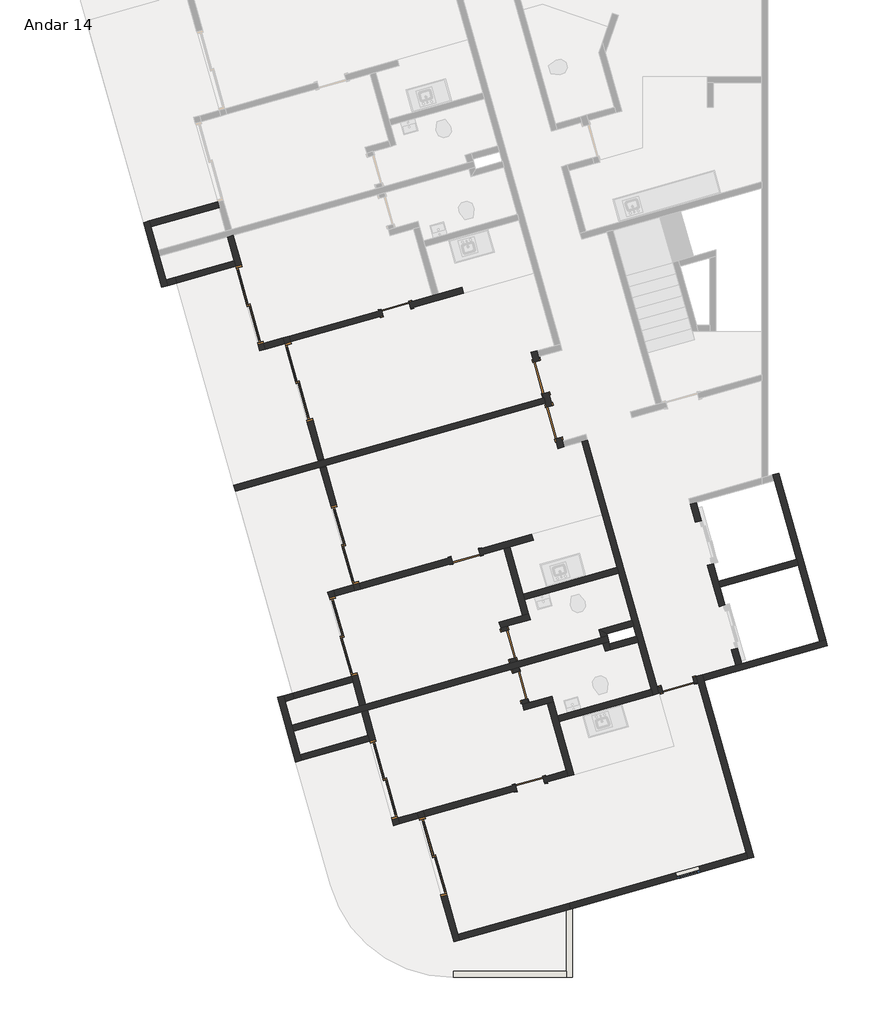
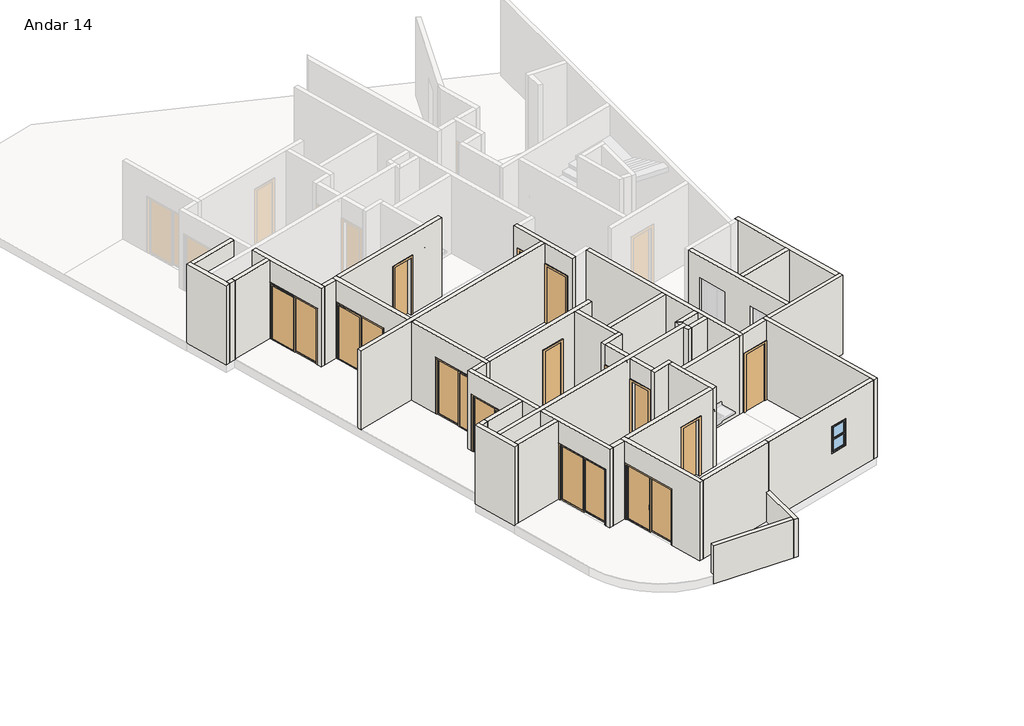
# One storey, part 1 of 3: 46 walls, 14 doors, 1 window.
"""IFC4 building model written with IfcOpenShell, lengths in millimetres."""

from ifc_helpers import new_model, si_unit, frame, origin, place, context, project, spatial, polyline, outline, extrude, faceted_brep, transform, mapped, element, save
from components import p2_80cm_9d4be4ef, p2_80cm_083652d6, p3_70cm_ef4d15e3, p3_70cm_0a698c7c, p4_correr_200cm_eaaa0877, p4_correr_200cm_830b8f20, bx_60cm_cef95a5c

model = new_model("IFC4")

# Units and contexts
model_context = context("Model", 3, world=origin())
ifc_project = project(units=[si_unit("LENGTHUNIT", "METRE", prefix="MILLI")], contexts=[model_context])

# Site, building, storey
site = spatial("IfcSite", under=ifc_project)
building = spatial("IfcBuilding", under=site)
storey = spatial("IfcBuildingStorey", under=building, Name="Andar 14", Elevation=91350.0)

# Doors
placement = place(None, origin())
p2_80cm_shape = p2_80cm_9d4be4ef(model_context)
element("IfcDoor", 1, ObjectType="M_Folha única1 : P2 - 80CM", at=placement, inside=storey, context=model_context, shape_type="MappedRepresentation", body=[
    mapped(p2_80cm_shape, transform((-80566.3456776, 19693.5423602, 91350.0), x_axis=(0.2717679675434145, -0.9623628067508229, 0.0), y_axis=(0.9623628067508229, 0.2717679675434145, 0.0), z_axis=(0.0, 0.0, 1.0))),
])
element("IfcDoor", 2, ObjectType="M_Folha única1 : P2 - 80CM", at=placement, inside=storey, context=model_context, shape_type="MappedRepresentation", body=[
    mapped(p2_80cm_shape, transform((-77213.6668366, 12144.847648, 91350.0), x_axis=(0.9623628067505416, 0.2717679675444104, 0.0), y_axis=(-0.2717679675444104, 0.9623628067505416, 0.0), z_axis=(0.0, 0.0, 1.0))),
])
p2_80cm_2_shape = p2_80cm_083652d6(model_context)
element("IfcDoor", 3, ObjectType="M_Folha única1 : P2 - 80CM", at=placement, inside=storey, context=model_context, shape_type="MappedRepresentation", body=[
    mapped(p2_80cm_2_shape, transform((-80253.8125149, 18586.8251325, 91350.0), x_axis=(-0.2717679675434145, 0.9623628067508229, 0.0), y_axis=(-0.9623628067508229, -0.2717679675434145, 0.0), z_axis=(0.0, 0.0, 1.0))),
])
p3_70cm_shape = p3_70cm_ef4d15e3(model_context)
element("IfcDoor", 4, ObjectType="M_Folha única1 : P3 - 70CM", at=placement, inside=storey, context=model_context, shape_type="MappedRepresentation", body=[
    mapped(p3_70cm_shape, transform((-84129.1775441, 21363.1168842, 91350.0), x_axis=(0.9623628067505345, 0.27176796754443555, 0.0), y_axis=(-0.27176796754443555, 0.9623628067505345, 0.0), z_axis=(0.0, 0.0, 1.0))),
])
element("IfcDoor", 5, ObjectType="M_Folha única1 : P3 - 70CM", at=placement, inside=storey, context=model_context, shape_type="MappedRepresentation", body=[
    mapped(p3_70cm_shape, transform((-80840.7851368, 9718.5269225, 91350.0), x_axis=(0.9623628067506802, 0.2717679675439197, 0.0), y_axis=(-0.2717679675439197, 0.9623628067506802, 0.0), z_axis=(0.0, 0.0, 1.0))),
])
element("IfcDoor", 6, ObjectType="M_Folha única1 : P3 - 70CM", at=placement, inside=storey, context=model_context, shape_type="MappedRepresentation", body=[
    mapped(p3_70cm_shape, transform((-81362.5862327, 13130.1209218, 91350.0), x_axis=(0.27176796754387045, -0.9623628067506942, 0.0), y_axis=(0.9623628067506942, 0.27176796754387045, 0.0), z_axis=(0.0, 0.0, 1.0))),
])
p3_70cm_2_shape = p3_70cm_0a698c7c(model_context)
element("IfcDoor", 7, ObjectType="M_Folha única1 : P3 - 70CM", at=placement, inside=storey, context=model_context, shape_type="MappedRepresentation", body=[
    mapped(p3_70cm_2_shape, transform((-81077.2298668, 12119.6399747, 91350.0), x_axis=(-0.27176796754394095, 0.9623628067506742, 0.0), y_axis=(-0.9623628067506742, -0.27176796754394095, 0.0), z_axis=(0.0, 0.0, 1.0))),
])
element("IfcDoor", 8, ObjectType="M_Folha única1 : P3 - 70CM", at=placement, inside=storey, context=model_context, shape_type="MappedRepresentation", body=[
    mapped(p3_70cm_2_shape, transform((-82417.0393485, 15300.2312016, 91350.0), x_axis=(0.9623628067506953, 0.2717679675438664, 0.0), y_axis=(-0.2717679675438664, 0.9623628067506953, 0.0), z_axis=(0.0, 0.0, 1.0))),
])
p4_correr_200cm_shape = p4_correr_200cm_eaaa0877(model_context)
element("IfcDoor", 9, ObjectType="Porta de correr dupla envidraçada sem revestimento : P4 - CORRER - 200CM", at=placement, inside=storey, context=model_context, shape_type="MappedRepresentation", body=[
    mapped(p4_correr_200cm_shape, transform((-86511.4049952, 19573.3416554, 91350.0), x_axis=(0.2717679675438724, -0.9623628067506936, 0.0), y_axis=(0.9623628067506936, 0.2717679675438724, 0.0), z_axis=(0.0, 0.0, 1.0))),
])
element("IfcDoor", 10, ObjectType="Porta de correr dupla envidraçada sem revestimento : P4 - CORRER - 200CM", at=placement, inside=storey, context=model_context, shape_type="MappedRepresentation", body=[
    mapped(p4_correr_200cm_shape, transform((-87717.4207223, 21466.8516126, 91350.0), x_axis=(0.2717679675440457, -0.9623628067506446, 0.0), y_axis=(0.9623628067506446, 0.2717679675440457, 0.0), z_axis=(0.0, 0.0, 1.0))),
])
element("IfcDoor", 11, ObjectType="Porta de correr dupla envidraçada sem revestimento : P4 - CORRER - 200CM", at=placement, inside=storey, context=model_context, shape_type="MappedRepresentation", body=[
    mapped(p4_correr_200cm_shape, transform((-84429.028315, 9822.2616509, 91350.0), x_axis=(-0.27176796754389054, 0.9623628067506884, 0.0), y_axis=(-0.9623628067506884, -0.27176796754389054, 0.0), z_axis=(0.0, 0.0, 1.0))),
])
element("IfcDoor", 12, ObjectType="Porta de correr dupla envidraçada sem revestimento : P4 - CORRER - 200CM", at=placement, inside=storey, context=model_context, shape_type="MappedRepresentation", body=[
    mapped(p4_correr_200cm_shape, transform((-83223.012588, 7928.7516937, 91350.0), x_axis=(-0.2717679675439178, 0.9623628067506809, 0.0), y_axis=(-0.9623628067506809, -0.2717679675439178, 0.0), z_axis=(0.0, 0.0, 1.0))),
])
p4_correr_200cm_2_shape = p4_correr_200cm_830b8f20(model_context)
element("IfcDoor", 13, ObjectType="Porta de correr dupla envidraçada sem revestimento : P4 - CORRER - 200CM", at=placement, inside=storey, context=model_context, shape_type="MappedRepresentation", body=[
    mapped(p4_correr_200cm_2_shape, transform((-85383.5679299, 15579.5360073, 91350.0), x_axis=(-0.2717679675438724, 0.9623628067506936, 0.0), y_axis=(-0.9623628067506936, -0.2717679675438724, 0.0), z_axis=(0.0, 0.0, 1.0))),
])
element("IfcDoor", 14, ObjectType="Porta de correr dupla envidraçada sem revestimento : P4 - CORRER - 200CM", at=placement, inside=storey, context=model_context, shape_type="MappedRepresentation", body=[
    mapped(p4_correr_200cm_2_shape, transform((-85420.9813965, 13334.8858955, 91350.0), x_axis=(-0.27176796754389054, 0.9623628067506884, 0.0), y_axis=(-0.9623628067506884, -0.27176796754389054, 0.0), z_axis=(0.0, 0.0, 1.0))),
])

# Walls
element("IfcWall", 15, ObjectType="Básica .15 - Externa", at=placement, inside=storey, context=model_context, shape_type="Brep", body=[
    faceted_brep([(-75344.9919691, 7919.3931149, 91350.0), (-76567.7484146, 12249.3196164, 91350.0), (-76608.5136097, 12393.6740374, 91350.0), (-76608.5136097, 12393.6740374, 94250.0), (-76567.7484146, 12249.3196164, 94250.0), (-75344.9919691, 7919.3931149, 94250.0), (-75489.3463901, 7878.6279198, 91350.0), (-75489.3463901, 7878.6279198, 94250.0), (-75530.1115852, 8022.9823408, 94250.0), (-76712.1028356, 12208.5544213, 94250.0), (-76752.8680308, 12352.9088423, 94250.0), (-76752.8680308, 12352.9088423, 91350.0), (-76712.1028356, 12208.5544213, 91350.0), (-75530.1115852, 8022.9823408, 91350.0)], [[[0, 1, 2, 3, 4, 5]], [[6, 7, 8, 9, 10, 11, 12, 13]], [[2, 1, 0, 6, 13, 12, 11]], [[5, 4, 3, 10, 9, 8, 7]], [[0, 5, 7, 6]], [[3, 2, 11, 10]]]),
])
element("IfcWall", 16, ObjectType="Básica .15 -  Interna", at=placement, inside=storey, context=model_context, shape_type="Brep", body=[
    faceted_brep([(-80529.815701, 19288.21464, 91350.0), (-80502.6389043, 19191.9783593, 91350.0), (-80461.8737092, 19047.6239383, 91350.0), (-80434.6969124, 18951.3876576, 91350.0), (-80434.6969124, 18951.3876576, 93450.0), (-80217.2825384, 18181.4974122, 93450.0), (-80217.2825384, 18181.4974122, 91350.0), (-80149.3405465, 17940.9067105, 91350.0), (-80149.3405465, 17940.9067105, 94250.0), (-80461.8737092, 19047.6239383, 94250.0), (-80502.6389043, 19191.9783593, 94250.0), (-80815.172067, 20298.695587, 94250.0), (-80815.172067, 20298.695587, 91350.0), (-80747.2300751, 20058.1048854, 91350.0), (-80747.2300751, 20058.1048854, 93450.0), (-80529.815701, 19288.21464, 93450.0), (-80290.3424914, 18992.1528527, 93450.0), (-80290.3424914, 18992.1528527, 91350.0), (-80385.46128, 19328.9798351, 91350.0), (-80385.46128, 19328.9798351, 93450.0), (-80602.8756541, 20098.8700805, 93450.0), (-80602.8756541, 20098.8700805, 91350.0), (-80630.0524508, 20195.1063612, 91350.0), (-80670.817646, 20339.4607822, 91350.0), (-80670.817646, 20339.4607822, 94250.0), (-80630.0524508, 20195.1063612, 94250.0), (-80045.7513206, 18126.0263266, 94250.0), (-80004.9861255, 17981.6719056, 94250.0), (-80004.9861255, 17981.6719056, 91350.0), (-80045.7513206, 18126.0263266, 91350.0), (-80072.9281174, 18222.2626073, 91350.0), (-80072.9281174, 18222.2626073, 93450.0)], [[[0, 1, 2, 3, 4, 5, 6, 7, 8, 9, 10, 11, 12, 13, 14, 15]], [[16, 17, 18, 19, 20, 21, 22, 23, 24, 25, 26, 27, 28, 29, 30, 31]], [[13, 12, 23, 22, 21]], [[18, 17, 3, 2, 1, 0]], [[30, 29, 28, 7, 6]], [[11, 10, 9, 8, 27, 26, 25, 24]], [[12, 11, 24, 23]], [[8, 7, 28, 27]], [[19, 18, 0, 15]], [[20, 19, 15, 14]], [[21, 20, 14, 13]], [[4, 3, 17, 16]], [[5, 4, 16, 31]], [[6, 5, 31, 30]]]),
])
element("IfcWall", 17, ObjectType="Básica .15 -  Interna", at=placement, inside=storey, context=model_context, shape_type="Brep", body=[
    faceted_brep([(-79571.9228624, 18103.967491, 91350.0), (-78702.2653663, 15024.4065094, 91350.0), (-78661.5001712, 14880.0520884, 91350.0), (-78335.3786101, 13725.2167203, 91350.0), (-78294.613415, 13580.8622993, 91350.0), (-78226.6714231, 13340.2715976, 91350.0), (-78185.906228, 13195.9171766, 91350.0), (-77818.8200634, 11896.0212586, 91350.0), (-77818.8200634, 11896.0212586, 94250.0), (-78185.906228, 13195.9171766, 94250.0), (-78226.6714231, 13340.2715976, 94250.0), (-78294.613415, 13580.8622993, 94250.0), (-78335.3786101, 13725.2167203, 94250.0), (-78661.5001712, 14880.0520884, 94250.0), (-78702.2653663, 15024.4065094, 94250.0), (-79571.9228624, 18103.967491, 94250.0), (-79427.5684414, 18144.7326862, 91350.0), (-79427.5684414, 18144.7326862, 94250.0), (-77715.2308375, 12081.1408747, 94250.0), (-77674.4656424, 11936.7864537, 94250.0), (-77674.4656424, 11936.7864537, 91350.0), (-77715.2308375, 12081.1408747, 91350.0)], [[[0, 1, 2, 3, 4, 5, 6, 7, 8, 9, 10, 11, 12, 13, 14, 15]], [[16, 17, 18, 19, 20, 21]], [[7, 6, 5, 4, 3, 2, 1, 0, 16, 21, 20]], [[15, 14, 13, 12, 11, 10, 9, 8, 19, 18, 17]], [[0, 15, 17, 16]], [[8, 7, 20, 19]]]),
])
element("IfcWall", 18, ObjectType="Básica .15 -  Interna", at=placement, inside=storey, context=model_context, shape_type="Brep", body=[
    faceted_brep([(-85017.5646639, 11630.3683862, 94250.0), (-85180.6254444, 12207.7860702, 94250.0), (-85221.3906395, 12352.1404912, 94250.0), (-85805.6917697, 14421.2205257, 94250.0), (-85805.6917697, 14421.2205257, 91350.0), (-85764.9265746, 14276.8661047, 91350.0), (-85764.9265746, 14276.8661047, 93450.0), (-85221.3906395, 12352.1404912, 93450.0), (-85221.3906395, 12352.1404912, 91350.0), (-85180.6254444, 12207.7860702, 91350.0), (-85017.5646639, 11630.3683862, 91350.0), (-85661.3373487, 14461.9857209, 94250.0), (-85620.5721536, 14317.6312998, 94250.0), (-84873.2102428, 11671.1335813, 94250.0), (-84873.2102428, 11671.1335813, 91350.0), (-85077.0362185, 12392.9056863, 91350.0), (-85077.0362185, 12392.9056863, 93450.0), (-85620.5721536, 14317.6312998, 93450.0), (-85620.5721536, 14317.6312998, 91350.0), (-85661.3373487, 14461.9857209, 91350.0)], [[[0, 1, 2, 3, 4, 5, 6, 7, 8, 9, 10]], [[11, 12, 13, 14, 15, 16, 17, 18, 19]], [[4, 19, 18, 5]], [[14, 10, 9, 8, 15]], [[3, 2, 1, 0, 13, 12, 11]], [[4, 3, 11, 19]], [[0, 10, 14, 13]], [[17, 6, 5, 18]], [[6, 17, 16, 7]], [[7, 16, 15, 8]]]),
])
element("IfcWall", 19, ObjectType="Básica .15 -  Interna", at=placement, inside=storey, context=model_context, shape_type="Brep", body=[
    faceted_brep([(-82710.8886682, 5839.2890616, 94250.0), (-83566.957766, 8870.7319029, 94250.0), (-83607.7229611, 9015.0863239, 94250.0), (-83607.7229611, 9015.0863239, 91350.0), (-83566.957766, 8870.7319029, 91350.0), (-83566.957766, 8870.7319029, 93450.0), (-83023.4218309, 6946.0062894, 93450.0), (-83023.4218309, 6946.0062894, 91350.0), (-82710.8886682, 5839.2890616, 91350.0), (-83463.3685401, 9055.851519, 94250.0), (-83422.603345, 8911.497098, 94250.0), (-82607.2994424, 6024.4086777, 94250.0), (-82566.5342472, 5880.0542567, 94250.0), (-82566.5342472, 5880.0542567, 91350.0), (-82607.2994424, 6024.4086777, 91350.0), (-82879.0674099, 6986.7714845, 91350.0), (-82879.0674099, 6986.7714845, 93450.0), (-83422.603345, 8911.497098, 93450.0), (-83422.603345, 8911.497098, 91350.0), (-83463.3685401, 9055.851519, 91350.0)], [[[0, 1, 2, 3, 4, 5, 6, 7, 8]], [[9, 10, 11, 12, 13, 14, 15, 16, 17, 18, 19]], [[3, 19, 18, 4]], [[13, 8, 7, 15, 14]], [[2, 1, 0, 12, 11, 10, 9]], [[3, 2, 9, 19]], [[0, 8, 13, 12]], [[17, 5, 4, 18]], [[5, 17, 16, 6]], [[6, 16, 15, 7]]]),
])
element("IfcWall", 20, ObjectType="Básica .15 -  Interna", at=placement, inside=storey, context=model_context, shape_type="Brep", body=[
    faceted_brep([(-86046.8404698, 17652.2925145, 91350.0), (-86046.8404698, 17652.2925145, 94250.0), (-86855.3501733, 20515.3218646, 94250.0), (-86896.1153684, 20659.6762856, 94250.0), (-86896.1153684, 20659.6762856, 91350.0), (-86855.3501733, 20515.3218646, 91350.0), (-86855.3501733, 20515.3218646, 93450.0), (-86311.8142382, 18590.596251, 93450.0), (-86311.8142382, 18590.596251, 91350.0), (-85902.4860488, 17693.0577096, 94250.0), (-85902.4860488, 17693.0577096, 91350.0), (-86167.4598172, 18631.3614462, 91350.0), (-86167.4598172, 18631.3614462, 93450.0), (-86710.9957523, 20556.0870597, 93450.0), (-86710.9957523, 20556.0870597, 91350.0), (-86751.7609474, 20700.4414807, 91350.0), (-86751.7609474, 20700.4414807, 94250.0), (-86710.9957523, 20556.0870597, 94250.0)], [[[0, 1, 2, 3, 4, 5, 6, 7, 8]], [[9, 10, 11, 12, 13, 14, 15, 16, 17]], [[10, 0, 8, 11]], [[4, 15, 14, 5]], [[1, 0, 10, 9]], [[3, 2, 1, 9, 17, 16]], [[4, 3, 16, 15]], [[7, 12, 11, 8]], [[12, 7, 6, 13]], [[13, 6, 5, 14]]]),
])
element("IfcWall", 21, ObjectType="Básica .15 - Externa", at=placement, inside=storey, context=model_context, shape_type="Brep", body=[
    faceted_brep([(-79945.4990038, 6620.2256515, 92450.0), (-79945.4990038, 6620.2256515, 91350.0), (-79945.4990038, 6620.2256515, 91050.0), (-79945.4990038, 5119.4122055, 91050.0), (-79945.4990038, 4969.4122055, 91050.0), (-79945.4990038, 4969.4122055, 92450.0), (-79945.4990038, 5119.4122055, 92450.0), (-79795.4990038, 6662.5851389, 91050.0), (-79795.4990038, 6662.5851389, 92450.0), (-79795.4990038, 4969.4122055, 92450.0), (-79795.4990038, 4969.4122055, 91050.0), (-79850.1164062, 6647.1613711, 91050.0)], [[[0, 1, 2, 3, 4, 5, 6]], [[7, 8, 9, 10]], [[4, 3, 2, 11, 7, 10]], [[0, 6, 5, 9, 8]], [[5, 4, 10, 9]], [[0, 8, 7, 11, 2, 1]]]),
])
element("IfcWall", 22, ObjectType="Básica .15 - Externa", at=placement, inside=storey, context=model_context, shape_type="SweptSolid", body=[
    extrude(outline(polyline([(-82713.5540687, 5119.4122055), (-79945.4990038, 5119.4122055), (-79945.4990038, 4969.4122055), (-82713.5540687, 4969.4122055), (-82713.5540687, 5119.4122055)])), frame((0.0, 0.0, 91050.0), z_axis=(0.0, 0.0, 1.0), x_axis=(1.0, 0.0, 0.0)), (0.0, 0.0, 1.0), 1400.0),
])
element("IfcWall", 23, ObjectType="Básica .15 - Externa", at=placement, inside=storey, context=model_context, shape_type="Brep", body=[
    faceted_brep([(-73581.8825825, 13248.3842954, 91350.0), (-73726.2370035, 13207.6191002, 91350.0), (-75646.150803, 12665.442005, 91350.0), (-75790.505224, 12624.6768098, 91350.0), (-76608.5136097, 12393.6740374, 91350.0), (-76608.5136097, 12393.6740374, 94250.0), (-75790.505224, 12624.6768098, 94250.0), (-75646.150803, 12665.442005, 94250.0), (-73726.2370035, 13207.6191002, 94250.0), (-73581.8825825, 13248.3842954, 94250.0), (-73541.1173874, 13104.0298743, 91350.0), (-73541.1173874, 13104.0298743, 94250.0), (-76567.7484146, 12249.3196164, 94250.0), (-76567.7484146, 12249.3196164, 91350.0)], [[[0, 1, 2, 3, 4, 5, 6, 7, 8, 9]], [[10, 11, 12, 13]], [[4, 3, 2, 1, 0, 10, 13]], [[9, 8, 7, 6, 5, 12, 11]], [[0, 9, 11, 10]], [[5, 4, 13, 12]]]),
])
element("IfcWall", 24, ObjectType="Básica .15 - Externa", at=placement, inside=storey, context=model_context, shape_type="Brep", body=[
    faceted_brep([(-74881.2508656, 17297.6610289, 91350.0), (-74840.4856705, 17153.3066079, 91350.0), (-74296.9497354, 15228.5809944, 91350.0), (-74256.1845402, 15084.2265734, 91350.0), (-73726.2370035, 13207.6191002, 91350.0), (-73726.2370035, 13207.6191002, 94250.0), (-74256.1845402, 15084.2265734, 94250.0), (-74296.9497354, 15228.5809944, 94250.0), (-74840.4856705, 17153.3066079, 94250.0), (-74881.2508656, 17297.6610289, 94250.0), (-74736.8964446, 17338.426224, 91350.0), (-74736.8964446, 17338.426224, 94250.0), (-73581.8825825, 13248.3842954, 94250.0), (-73581.8825825, 13248.3842954, 91350.0)], [[[0, 1, 2, 3, 4, 5, 6, 7, 8, 9]], [[10, 11, 12, 13]], [[4, 3, 2, 1, 0, 10, 13]], [[9, 8, 7, 6, 5, 12, 11]], [[0, 9, 11, 10]], [[5, 4, 13, 12]]]),
])
element("IfcWall", 25, ObjectType="Básica .15 -  Interna", at=placement, inside=storey, context=model_context, shape_type="Brep", body=[
    faceted_brep([(-76483.167581, 15077.4768805, 91350.0), (-76197.8112151, 14066.9959334, 91350.0), (-76197.8112151, 14066.9959334, 93475.0), (-75898.8664508, 13008.396846, 93475.0), (-75898.8664508, 13008.396846, 91350.0), (-75790.505224, 12624.6768098, 91350.0), (-75790.505224, 12624.6768098, 94250.0), (-76904.7538909, 16570.3643175, 94250.0), (-76904.7538909, 16570.3643175, 91350.0), (-76782.1123453, 16136.075968, 91350.0), (-76782.1123453, 16136.075968, 93475.0), (-76483.167581, 15077.4768805, 93475.0), (-76053.4567941, 14107.7611286, 93475.0), (-76053.4567941, 14107.7611286, 91350.0), (-76176.0983397, 14542.0494781, 91350.0), (-76216.8635348, 14686.4038991, 91350.0), (-76338.81316, 15118.2420757, 91350.0), (-76338.81316, 15118.2420757, 93475.0), (-76637.7579243, 16176.8411631, 93475.0), (-76637.7579243, 16176.8411631, 91350.0), (-76760.3994699, 16611.1295126, 91350.0), (-76760.3994699, 16611.1295126, 94250.0), (-76216.8635348, 14686.4038991, 94250.0), (-76176.0983397, 14542.0494781, 94250.0), (-75646.150803, 12665.442005, 94250.0), (-75646.150803, 12665.442005, 91350.0), (-75754.5120298, 13049.1620412, 91350.0), (-75754.5120298, 13049.1620412, 93475.0)], [[[0, 1, 2, 3, 4, 5, 6, 7, 8, 9, 10, 11]], [[12, 13, 14, 15, 16, 17, 18, 19, 20, 21, 22, 23, 24, 25, 26, 27]], [[9, 8, 20, 19]], [[26, 25, 5, 4]], [[16, 15, 14, 13, 1, 0]], [[7, 6, 24, 23, 22, 21]], [[8, 7, 21, 20]], [[6, 5, 25, 24]], [[4, 3, 27, 26]], [[2, 1, 13, 12]], [[3, 2, 12, 27]], [[19, 18, 10, 9]], [[17, 16, 0, 11]], [[18, 17, 11, 10]]]),
])
element("IfcWall", 26, ObjectType="Básica .15 -  Interna", at=placement, inside=storey, context=model_context, shape_type="SweptSolid", body=[
    extrude(outline(polyline([(-74256.1845402, 15084.2265734), (-76176.0983397, 14542.0494781), (-76216.8635348, 14686.4038991), (-74296.9497354, 15228.5809944), (-74256.1845402, 15084.2265734)])), frame((0.0, 0.0, 91350.0), z_axis=(0.0, 0.0, 1.0), x_axis=(1.0, 0.0, 0.0)), (0.0, 0.0, 1.0), 2900.0),
])
element("IfcWall", 27, ObjectType="Básica .15 -  Interna", at=placement, inside=storey, context=model_context, shape_type="Brep", body=[
    faceted_brep([(-82566.5342472, 5880.0542567, 91350.0), (-79945.4990038, 6620.2256515, 91350.0), (-79850.1164062, 6647.1613711, 91350.0), (-79850.1164062, 6647.1613711, 94250.0), (-82566.5342472, 5880.0542567, 94250.0), (-82607.2994424, 6024.4086777, 91350.0), (-82607.2994424, 6024.4086777, 94250.0), (-79890.8816014, 6791.5157921, 94250.0), (-79890.8816014, 6791.5157921, 91350.0), (-79945.4990038, 6776.0920243, 91350.0)], [[[0, 1, 2, 3, 4]], [[5, 6, 7, 8, 9]], [[2, 1, 0, 5, 9, 8]], [[4, 3, 7, 6]], [[0, 4, 6, 5]], [[2, 8, 7, 3]]]),
])
element("IfcWall", 28, ObjectType="Básica .15 -  Interna", at=placement, inside=storey, context=model_context, shape_type="Brep", body=[
    faceted_brep([(-85221.3906395, 12352.1404912, 91350.0), (-86668.7560772, 11943.4094383, 91350.0), (-86668.7560772, 11943.4094383, 94250.0), (-85221.3906395, 12352.1404912, 94250.0), (-85221.3906395, 12352.1404912, 93450.0), (-85180.6254444, 12207.7860702, 91350.0), (-85180.6254444, 12207.7860702, 94250.0), (-86627.9908821, 11799.0550173, 94250.0), (-86627.9908821, 11799.0550173, 91350.0)], [[[0, 1, 2, 3, 4]], [[5, 6, 7, 8]], [[1, 0, 5, 8]], [[2, 1, 8, 7]], [[3, 2, 7, 6]], [[0, 4, 3, 6, 5]]]),
])
element("IfcWall", 29, ObjectType="Básica .15 - Externa", at=placement, inside=storey, context=model_context, shape_type="Brep", body=[
    faceted_brep([(-86444.4738537, 10292.215871, 91350.0), (-86485.2390488, 10436.570292, 91350.0), (-86648.2998293, 11013.987976, 91350.0), (-86689.0650245, 11158.342397, 91350.0), (-86852.125805, 11735.7600811, 91350.0), (-86892.8910001, 11880.1145021, 91350.0), (-86892.8910001, 11880.1145021, 94250.0), (-86852.125805, 11735.7600811, 94250.0), (-86689.0650245, 11158.342397, 94250.0), (-86648.2998293, 11013.987976, 94250.0), (-86485.2390488, 10436.570292, 94250.0), (-86444.4738537, 10292.215871, 94250.0), (-86588.8282747, 10251.4506758, 91350.0), (-86588.8282747, 10251.4506758, 94250.0), (-87037.2454211, 11839.349307, 94250.0), (-87037.2454211, 11839.349307, 91350.0)], [[[0, 1, 2, 3, 4, 5, 6, 7, 8, 9, 10, 11]], [[12, 13, 14, 15]], [[5, 4, 3, 2, 1, 0, 12, 15]], [[11, 10, 9, 8, 7, 6, 14, 13]], [[6, 5, 15, 14]], [[0, 11, 13, 12]]]),
])
element("IfcWall", 30, ObjectType="Básica .15 -  Interna", at=placement, inside=storey, context=model_context, shape_type="Brep", body=[
    faceted_brep([(-86444.4738537, 10292.215871, 91350.0), (-84772.9734931, 10764.2418601, 91350.0), (-84772.9734931, 10764.2418601, 93450.0), (-84772.9734931, 10764.2418601, 94250.0), (-86444.4738537, 10292.215871, 94250.0), (-86485.2390488, 10436.570292, 91350.0), (-86485.2390488, 10436.570292, 94250.0), (-84813.7386882, 10908.5962811, 94250.0), (-84813.7386882, 10908.5962811, 91350.0)], [[[0, 1, 2, 3, 4]], [[5, 6, 7, 8]], [[1, 0, 5, 8]], [[4, 3, 7, 6]], [[0, 4, 6, 5]], [[3, 2, 1, 8, 7]]]),
])
element("IfcWall", 31, ObjectType="Básica .15 - Externa", at=placement, inside=storey, context=model_context, shape_type="Brep", body=[
    faceted_brep([(-89732.866261, 21936.8058326, 91350.0), (-89773.6314561, 22081.1602536, 91350.0), (-89936.6922366, 22658.5779377, 91350.0), (-89977.4574318, 22802.9323587, 91350.0), (-90140.5182123, 23380.3500428, 91350.0), (-90181.2834074, 23524.7044638, 91350.0), (-90181.2834074, 23524.7044638, 94250.0), (-90140.5182123, 23380.3500428, 94250.0), (-89977.4574318, 22802.9323587, 94250.0), (-89936.6922366, 22658.5779377, 94250.0), (-89773.6314561, 22081.1602536, 94250.0), (-89732.866261, 21936.8058326, 94250.0), (-89877.220682, 21896.0406375, 91350.0), (-89877.220682, 21896.0406375, 94250.0), (-90325.6378284, 23483.9392686, 94250.0), (-90325.6378284, 23483.9392686, 91350.0)], [[[0, 1, 2, 3, 4, 5, 6, 7, 8, 9, 10, 11]], [[12, 13, 14, 15]], [[5, 4, 3, 2, 1, 0, 12, 15]], [[11, 10, 9, 8, 7, 6, 14, 13]], [[0, 11, 13, 12]], [[6, 5, 15, 14]]]),
])
element("IfcWall", 32, ObjectType="Básica .15 -  Interna", at=placement, inside=storey, context=model_context, shape_type="Brep", body=[
    faceted_brep([(-88102.1310955, 22553.1862428, 91350.0), (-89549.4965332, 22144.4551899, 91350.0), (-89549.4965332, 22144.4551899, 94250.0), (-88102.1310955, 22553.1862428, 94250.0), (-88061.3659003, 22408.8318218, 91350.0), (-88061.3659003, 22408.8318218, 93450.0), (-88061.3659003, 22408.8318218, 94250.0), (-89508.731338, 22000.1007688, 94250.0), (-89508.731338, 22000.1007688, 91350.0)], [[[0, 1, 2, 3]], [[4, 5, 6, 7, 8]], [[1, 0, 4, 8]], [[2, 1, 8, 7]], [[3, 2, 7, 6]], [[0, 3, 6, 5, 4]]]),
])
element("IfcWall", 33, ObjectType="Básica .15 -  Interna", at=placement, inside=storey, context=model_context, shape_type="Brep", body=[
    faceted_brep([(-90140.5182123, 23380.3500428, 91350.0), (-88469.0178517, 23852.3760319, 91350.0), (-88469.0178517, 23852.3760319, 94250.0), (-90140.5182123, 23380.3500428, 94250.0), (-90181.2834074, 23524.7044638, 91350.0), (-90181.2834074, 23524.7044638, 94250.0), (-88509.7830468, 23996.7304529, 94250.0), (-88509.7830468, 23996.7304529, 93450.0), (-88509.7830468, 23996.7304529, 91350.0)], [[[0, 1, 2, 3]], [[4, 5, 6, 7, 8]], [[1, 0, 4, 8]], [[3, 2, 6, 5]], [[0, 3, 5, 4]], [[2, 1, 8, 7, 6]]]),
])
element("IfcWall", 34, ObjectType="Básica .15 -  Interna", at=placement, inside=storey, context=model_context, shape_type="Brep", body=[
    faceted_brep([(-86896.1153684, 20659.6762856, 91350.0), (-87373.4755442, 20524.8714034, 91350.0), (-87373.4755442, 20524.8714034, 93450.0), (-87373.4755442, 20524.8714034, 94250.0), (-86896.1153684, 20659.6762856, 94250.0), (-86855.3501733, 20515.3218646, 91350.0), (-86855.3501733, 20515.3218646, 93450.0), (-86855.3501733, 20515.3218646, 94250.0), (-87332.7103491, 20380.5169824, 94250.0), (-87332.7103491, 20380.5169824, 91350.0)], [[[0, 1, 2, 3, 4]], [[5, 6, 7, 8, 9]], [[1, 0, 5, 9]], [[4, 3, 8, 7]], [[0, 4, 7, 6, 5]], [[3, 2, 1, 9, 8]]]),
])
element("IfcWall", 35, ObjectType="Básica .15 -  Interna", at=placement, inside=storey, context=model_context, shape_type="Brep", body=[
    faceted_brep([(-83607.7229611, 9015.0863239, 91350.0), (-84085.083137, 8880.2814417, 91350.0), (-84085.083137, 8880.2814417, 93450.0), (-84085.083137, 8880.2814417, 94250.0), (-83607.7229611, 9015.0863239, 94250.0), (-83566.957766, 8870.7319029, 91350.0), (-83566.957766, 8870.7319029, 93450.0), (-83566.957766, 8870.7319029, 94250.0), (-84044.3179418, 8735.9270207, 94250.0), (-84044.3179418, 8735.9270207, 91350.0)], [[[0, 1, 2, 3, 4]], [[5, 6, 7, 8, 9]], [[1, 0, 5, 9]], [[4, 3, 8, 7]], [[3, 2, 1, 9, 8]], [[0, 4, 7, 6, 5]]]),
])
element("IfcWall", 36, ObjectType="Básica .15 -  Interna", at=placement, inside=storey, context=model_context, shape_type="Brep", body=[
    faceted_brep([(-85183.9771729, 14596.790603, 91350.0), (-85661.3373487, 14461.9857209, 91350.0), (-85661.3373487, 14461.9857209, 94250.0), (-85183.9771729, 14596.790603, 94250.0), (-85183.9771729, 14596.790603, 93450.0), (-85143.2119778, 14452.436182, 91350.0), (-85143.2119778, 14452.436182, 94250.0), (-85620.5721536, 14317.6312998, 94250.0), (-85620.5721536, 14317.6312998, 93450.0), (-85620.5721536, 14317.6312998, 91350.0)], [[[0, 1, 2, 3, 4]], [[5, 6, 7, 8, 9]], [[1, 0, 5, 9]], [[3, 2, 7, 6]], [[2, 1, 9, 8, 7]], [[0, 4, 3, 6, 5]]]),
])
element("IfcWall", 37, ObjectType="Básica .15 -  Interna", at=placement, inside=storey, context=model_context, shape_type="Brep", body=[
    faceted_brep([(-87477.0647701, 20339.7517872, 94250.0), (-88061.3659003, 22408.8318218, 94250.0), (-88102.1310955, 22553.1862428, 94250.0), (-88265.191876, 23130.6039268, 94250.0), (-88265.191876, 23130.6039268, 91350.0), (-88102.1310955, 22553.1862428, 91350.0), (-88061.3659003, 22408.8318218, 91350.0), (-88061.3659003, 22408.8318218, 93450.0), (-87517.8299653, 20484.1062083, 93450.0), (-87517.8299653, 20484.1062083, 91350.0), (-87477.0647701, 20339.7517872, 91350.0), (-88120.837455, 23171.369122, 94250.0), (-87373.4755442, 20524.8714034, 94250.0), (-87332.7103491, 20380.5169824, 94250.0), (-87332.7103491, 20380.5169824, 91350.0), (-87373.4755442, 20524.8714034, 91350.0), (-87373.4755442, 20524.8714034, 93450.0), (-87917.0114793, 22449.5970169, 93450.0), (-87917.0114793, 22449.5970169, 91350.0), (-88120.837455, 23171.369122, 91350.0)], [[[0, 1, 2, 3, 4, 5, 6, 7, 8, 9, 10]], [[11, 12, 13, 14, 15, 16, 17, 18, 19]], [[14, 10, 9, 15]], [[4, 19, 18, 6, 5]], [[3, 2, 1, 0, 13, 12, 11]], [[0, 10, 14, 13]], [[4, 3, 11, 19]], [[8, 16, 15, 9]], [[16, 8, 7, 17]], [[17, 7, 6, 18]]]),
])
element("IfcWall", 38, ObjectType="Básica .15 -  Interna", at=placement, inside=storey, context=model_context, shape_type="Brep", body=[
    faceted_brep([(-85143.2119778, 14452.436182, 94250.0), (-85183.9771729, 14596.790603, 94250.0), (-85992.4868763, 17459.8199531, 94250.0), (-85992.4868763, 17459.8199531, 91350.0), (-85727.513108, 16521.5162165, 91350.0), (-85727.513108, 16521.5162165, 93450.0), (-85183.9771729, 14596.790603, 93450.0), (-85183.9771729, 14596.790603, 91350.0), (-85143.2119778, 14452.436182, 91350.0), (-85848.1324553, 17500.5851482, 94250.0), (-85039.6227519, 14637.5557982, 94250.0), (-84998.8575568, 14493.2013772, 94250.0), (-84998.8575568, 14493.2013772, 91350.0), (-85039.6227519, 14637.5557982, 91350.0), (-85039.6227519, 14637.5557982, 93450.0), (-85583.158687, 16562.2814117, 93450.0), (-85583.158687, 16562.2814117, 91350.0), (-85848.1324553, 17500.5851482, 91350.0)], [[[0, 1, 2, 3, 4, 5, 6, 7, 8]], [[9, 10, 11, 12, 13, 14, 15, 16, 17]], [[3, 17, 16, 4]], [[12, 8, 7, 13]], [[2, 1, 0, 11, 10, 9]], [[3, 2, 9, 17]], [[0, 8, 12, 11]], [[15, 5, 4, 16]], [[5, 15, 14, 6]], [[6, 14, 13, 7]]]),
])
element("IfcWall", 39, ObjectType="Básica .15 -  Interna", at=placement, inside=storey, context=model_context, shape_type="SweptSolid", body=[
    extrude(outline(polyline([(-80461.8737092, 19047.6239383), (-88068.36111, 16899.5778931), (-88109.1263052, 17043.9323141), (-80502.6389043, 19191.9783593), (-80461.8737092, 19047.6239383)])), frame((0.0, 0.0, 91350.0), z_axis=(0.0, 0.0, 1.0), x_axis=(1.0, 0.0, 0.0)), (0.0, 0.0, 1.0), 2900.0),
])
element("IfcWall", 40, ObjectType="Básica .15 -  Interna", at=placement, inside=storey, context=model_context, shape_type="Brep", body=[
    faceted_brep([(-78945.0553533, 13345.2242614, 91350.0), (-81168.1134369, 12717.4402563, 91350.0), (-81312.4678579, 12676.6750612, 91350.0), (-84873.2102428, 11671.1335813, 91350.0), (-85017.5646639, 11630.3683862, 91350.0), (-86689.0650245, 11158.342397, 91350.0), (-86689.0650245, 11158.342397, 94250.0), (-85017.5646639, 11630.3683862, 94250.0), (-84873.2102428, 11671.1335813, 94250.0), (-81312.4678579, 12676.6750612, 94250.0), (-81168.1134369, 12717.4402563, 94250.0), (-78945.0553533, 13345.2242614, 94250.0), (-78904.2901581, 13200.8698403, 91350.0), (-78904.2901581, 13200.8698403, 94250.0), (-81127.3482417, 12573.0858353, 94250.0), (-81271.7026627, 12532.3206402, 94250.0), (-84832.4450477, 11526.7791603, 94250.0), (-84976.7994687, 11486.0139651, 94250.0), (-86648.2998293, 11013.987976, 94250.0), (-86648.2998293, 11013.987976, 91350.0), (-84976.7994687, 11486.0139651, 91350.0), (-84832.4450477, 11526.7791603, 91350.0), (-81271.7026627, 12532.3206402, 91350.0), (-81127.3482417, 12573.0858353, 91350.0)], [[[0, 1, 2, 3, 4, 5, 6, 7, 8, 9, 10, 11]], [[12, 13, 14, 15, 16, 17, 18, 19, 20, 21, 22, 23]], [[5, 4, 3, 2, 1, 0, 12, 23, 22, 21, 20, 19]], [[11, 10, 9, 8, 7, 6, 18, 17, 16, 15, 14, 13]], [[0, 11, 13, 12]], [[6, 5, 19, 18]]]),
])
element("IfcWall", 41, ObjectType="Básica .15 -  Interna", at=placement, inside=storey, context=model_context, shape_type="Brep", body=[
    faceted_brep([(-84188.6723628, 8695.1618256, 94250.0), (-84772.9734931, 10764.2418601, 94250.0), (-84813.7386882, 10908.5962811, 94250.0), (-84976.7994687, 11486.0139651, 94250.0), (-84976.7994687, 11486.0139651, 91350.0), (-84813.7386882, 10908.5962811, 91350.0), (-84772.9734931, 10764.2418601, 91350.0), (-84772.9734931, 10764.2418601, 93450.0), (-84229.437558, 8839.5162466, 93450.0), (-84229.437558, 8839.5162466, 91350.0), (-84188.6723628, 8695.1618256, 91350.0), (-84832.4450477, 11526.7791603, 94250.0), (-84085.083137, 8880.2814417, 94250.0), (-84044.3179418, 8735.9270207, 94250.0), (-84044.3179418, 8735.9270207, 91350.0), (-84085.083137, 8880.2814417, 91350.0), (-84085.083137, 8880.2814417, 93450.0), (-84628.6190721, 10805.0070552, 93450.0), (-84628.6190721, 10805.0070552, 91350.0), (-84832.4450477, 11526.7791603, 91350.0)], [[[0, 1, 2, 3, 4, 5, 6, 7, 8, 9, 10]], [[11, 12, 13, 14, 15, 16, 17, 18, 19]], [[14, 10, 9, 15]], [[4, 19, 18, 6, 5]], [[3, 2, 1, 0, 13, 12, 11]], [[0, 10, 14, 13]], [[4, 3, 11, 19]], [[17, 7, 6, 18]], [[7, 17, 16, 8]], [[8, 16, 15, 9]]]),
])
element("IfcWall", 42, ObjectType="Básica .15 - Externa", at=placement, inside=storey, context=model_context, shape_type="SweptSolid", body=[
    extrude(outline(polyline([(2962.0940384, -2900.0), (2962.0940384, 0.0), (7493.4100717, 0.0), (7493.4100717, -2900.0), (2962.0940384, -2900.0)]), holes=[polyline([(6287.7350721, -1100.0), (5687.7350721, -1100.0), (5687.7350721, -2100.0), (6287.7350721, -2100.0), (6287.7350721, -1100.0)])]), frame((-82700.7255388, 5842.1590946, 91350.0), z_axis=(-0.27176796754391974, 0.9623628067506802, 0.0), x_axis=(0.9623628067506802, 0.27176796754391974, 0.0)), (0.0, 0.0, 1.0), 150.0),
])
element("IfcWall", 43, ObjectType="Básica .15 - Externa", at=placement, inside=storey, context=model_context, shape_type="SweptSolid", body=[
    extrude(outline(polyline([(-89773.6314561, 22081.1602536), (-89549.4965332, 22144.4551899), (-89508.731338, 22000.1007688), (-89732.866261, 21936.8058326), (-89773.6314561, 22081.1602536)])), frame((0.0, 0.0, 91350.0), z_axis=(0.0, 0.0, 1.0), x_axis=(1.0, 0.0, 0.0)), (0.0, 0.0, 1.0), 2900.0),
])
element("IfcWall", 44, ObjectType="Básica .15 - Externa", at=placement, inside=storey, context=model_context, shape_type="SweptSolid", body=[
    extrude(outline(polyline([(-86892.8910001, 11880.1145021), (-86668.7560772, 11943.4094383), (-86627.9908821, 11799.0550173), (-86852.125805, 11735.7600811), (-86892.8910001, 11880.1145021)])), frame((0.0, 0.0, 91350.0), z_axis=(0.0, 0.0, 1.0), x_axis=(1.0, 0.0, 0.0)), (0.0, 0.0, 1.0), 2900.0),
])
element("IfcWall", 45, ObjectType="Básica .15 -  Interna", at=placement, inside=storey, context=model_context, shape_type="Brep", body=[
    faceted_brep([(-82513.5433702, 21897.2996395, 91350.0), (-83090.9610542, 21734.238859, 91350.0), (-83235.3154752, 21693.4736638, 91350.0), (-83812.7331593, 21530.4128833, 91350.0), (-83812.7331593, 21530.4128833, 93450.0), (-84486.387124, 21340.175306, 93450.0), (-84486.387124, 21340.175306, 91350.0), (-86751.7609474, 20700.4414807, 91350.0), (-86751.7609474, 20700.4414807, 94250.0), (-83235.3154752, 21693.4736638, 94250.0), (-83090.9610542, 21734.238859, 94250.0), (-82513.5433702, 21897.2996395, 94250.0), (-83771.9679641, 21386.0584623, 93450.0), (-83771.9679641, 21386.0584623, 91350.0), (-82472.778175, 21752.9452185, 91350.0), (-82472.778175, 21752.9452185, 94250.0), (-86710.9957523, 20556.0870597, 94250.0), (-86710.9957523, 20556.0870597, 93450.0), (-86710.9957523, 20556.0870597, 91350.0), (-84445.6219289, 21195.820885, 91350.0), (-84445.6219289, 21195.820885, 93450.0)], [[[0, 1, 2, 3, 4, 5, 6, 7, 8, 9, 10, 11]], [[12, 13, 14, 15, 16, 17, 18, 19, 20]], [[19, 18, 7, 6]], [[14, 13, 3, 2, 1, 0]], [[11, 10, 9, 8, 16, 15]], [[0, 11, 15, 14]], [[4, 3, 13, 12]], [[5, 4, 12, 20]], [[6, 5, 20, 19]], [[8, 7, 18, 17, 16]]]),
])
element("IfcWall", 46, ObjectType="Básica .15 -  Interna", at=placement, inside=storey, context=model_context, shape_type="SweptSolid", body=[
    extrude(outline(polyline([(-80169.4554031, 11388.8386864), (-77859.7846669, 12041.0818085), (-77819.0194718, 11896.7273875), (-80128.690208, 11244.4842654), (-80169.4554031, 11388.8386864)])), frame((0.0, 0.0, 91350.0), z_axis=(0.0, 0.0, 1.0), x_axis=(1.0, 0.0, 0.0)), (0.0, 0.0, 1.0), 2900.0),
])
element("IfcWall", 47, ObjectType="Básica .15 -  Interna", at=placement, inside=storey, context=model_context, shape_type="SweptSolid", body=[
    extrude(outline(polyline([(-78185.906228, 13195.9171766), (-78849.9365646, 13008.397279), (-78890.7017597, 13152.7517), (-78226.6714231, 13340.2715976), (-78185.906228, 13195.9171766)])), frame((0.0, 0.0, 91350.0), z_axis=(0.0, 0.0, 1.0), x_axis=(1.0, 0.0, 0.0)), (0.0, 0.0, 1.0), 2900.0),
])
element("IfcWall", 48, ObjectType="Básica .15 -  Interna", at=placement, inside=storey, context=model_context, shape_type="Brep", body=[
    faceted_brep([(-80986.3462968, 11521.8396931, 91350.0), (-80408.9286128, 11684.9004736, 91350.0), (-80264.5741917, 11725.6656688, 91350.0), (-80264.5741917, 11725.6656688, 94250.0), (-80408.9286128, 11684.9004736, 94250.0), (-80986.3462968, 11521.8396931, 94250.0), (-81027.1114919, 11666.1941141, 91350.0), (-81027.1114919, 11666.1941141, 94250.0), (-80882.7570709, 11706.9593092, 94250.0), (-80305.3393869, 11870.0200898, 94250.0), (-80305.3393869, 11870.0200898, 91350.0), (-80882.7570709, 11706.9593092, 91350.0)], [[[0, 1, 2, 3, 4, 5]], [[6, 7, 8, 9, 10, 11]], [[2, 1, 0, 6, 11, 10]], [[5, 4, 3, 9, 8, 7]], [[0, 5, 7, 6]], [[3, 2, 10, 9]]]),
])
element("IfcWall", 49, ObjectType="Básica .15 -  Interna", at=placement, inside=storey, context=model_context, shape_type="SweptSolid", body=[
    extrude(outline(polyline([(900.0, -2900.0), (0.0, -2900.0), (0.0, 0.0), (100.0, 0.0), (100.0, -2100.0), (800.0, -2100.0), (800.0, 0.0), (900.0, 0.0), (900.0, -2900.0)])), frame((-81271.7026627, 12532.3206402, 91350.0), z_axis=(0.9623628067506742, 0.271767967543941, 0.0), x_axis=(0.271767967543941, -0.9623628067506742, 0.0)), (0.0, 0.0, 1.0), 150.0),
])
element("IfcWall", 50, ObjectType="Básica .15 -  Interna", at=placement, inside=storey, context=model_context, shape_type="Brep", body=[
    faceted_brep([(-80408.9286128, 11684.9004736, 91350.0), (-79946.9230679, 10048.8837021, 91350.0), (-79906.1578728, 9904.5292811, 91350.0), (-79906.1578728, 9904.5292811, 94250.0), (-79946.9230679, 10048.8837021, 94250.0), (-80408.9286128, 11684.9004736, 94250.0), (-80264.5741917, 11725.6656688, 91350.0), (-80264.5741917, 11725.6656688, 94250.0), (-80169.4554031, 11388.8386864, 94250.0), (-80128.690208, 11244.4842654, 94250.0), (-79761.8034518, 9945.2944763, 94250.0), (-79761.8034518, 9945.2944763, 91350.0), (-80128.690208, 11244.4842654, 91350.0), (-80169.4554031, 11388.8386864, 91350.0)], [[[0, 1, 2, 3, 4, 5]], [[6, 7, 8, 9, 10, 11, 12, 13]], [[2, 1, 0, 6, 13, 12, 11]], [[5, 4, 3, 10, 9, 8, 7]], [[3, 2, 11, 10]], [[0, 5, 7, 6]]]),
])
element("IfcWall", 51, ObjectType="Básica .15 -  Interna", at=placement, inside=storey, context=model_context, shape_type="Brep", body=[
    faceted_brep([(-79946.9230679, 10048.8837021, 91350.0), (-80524.340752, 9885.8229216, 91350.0), (-80524.340752, 9885.8229216, 93450.0), (-81197.9947167, 9695.5853443, 93450.0), (-81197.9947167, 9695.5853443, 91350.0), (-83463.3685401, 9055.851519, 91350.0), (-83463.3685401, 9055.851519, 94250.0), (-79946.9230679, 10048.8837021, 94250.0), (-80483.5755569, 9741.4685006, 93450.0), (-80483.5755569, 9741.4685006, 91350.0), (-79906.1578728, 9904.5292811, 91350.0), (-79906.1578728, 9904.5292811, 94250.0), (-83422.603345, 8911.497098, 94250.0), (-83422.603345, 8911.497098, 93450.0), (-83422.603345, 8911.497098, 91350.0), (-81157.2295216, 9551.2309233, 91350.0), (-81157.2295216, 9551.2309233, 93450.0)], [[[0, 1, 2, 3, 4, 5, 6, 7]], [[8, 9, 10, 11, 12, 13, 14, 15, 16]], [[15, 14, 5, 4]], [[10, 9, 1, 0]], [[7, 6, 12, 11]], [[2, 1, 9, 8]], [[3, 2, 8, 16]], [[4, 3, 16, 15]], [[0, 7, 11, 10]], [[6, 5, 14, 13, 12]]]),
])
element("IfcWall", 52, ObjectType="Básica .15 -  Interna", at=placement, inside=storey, context=model_context, shape_type="Brep", body=[
    faceted_brep([(-79048.6445791, 13160.1046452, 91350.0), (-78994.2909856, 12967.6320839, 91350.0), (-78994.2909856, 12967.6320839, 94250.0), (-79048.6445791, 13160.1046452, 94250.0), (-78904.2901581, 13200.8698403, 91350.0), (-78904.2901581, 13200.8698403, 94250.0), (-78890.7017597, 13152.7517, 94250.0), (-78849.9365646, 13008.397279, 94250.0), (-78849.9365646, 13008.397279, 91350.0), (-78890.7017597, 13152.7517, 91350.0)], [[[0, 1, 2, 3]], [[4, 5, 6, 7, 8, 9]], [[1, 0, 4, 9, 8]], [[3, 2, 7, 6, 5]], [[0, 3, 5, 4]], [[2, 1, 8, 7]]]),
])
element("IfcWall", 53, ObjectType="Básica .15 -  Interna", at=placement, inside=storey, context=model_context, shape_type="SweptSolid", body=[
    extrude(outline(polyline([(-79143.7633678, 13496.9316276), (-78335.3786101, 13725.2167203), (-78294.613415, 13580.8622993), (-78958.6437516, 13393.3424017), (-79143.7633678, 13496.9316276)])), frame((0.0, 0.0, 91350.0), z_axis=(0.0, 0.0, 1.0), x_axis=(1.0, 0.0, 0.0)), (0.0, 0.0, 1.0), 2900.0),
])
element("IfcWall", 54, ObjectType="Básica .15 -  Interna", at=placement, inside=storey, context=model_context, shape_type="SweptSolid", body=[
    extrude(outline(polyline([(-79089.4097743, 13304.4590662), (-79143.7633678, 13496.9316276), (-78958.6437516, 13393.3424017), (-78945.0553533, 13345.2242614), (-79089.4097743, 13304.4590662)])), frame((0.0, 0.0, 91350.0), z_axis=(0.0, 0.0, 1.0), x_axis=(1.0, 0.0, 0.0)), (0.0, 0.0, 1.0), 2900.0),
])
element("IfcWall", 55, ObjectType="Básica .15 -  Interna", at=placement, inside=storey, context=model_context, shape_type="Brep", body=[
    faceted_brep([(-80876.0521187, 13890.981984, 91350.0), (-81020.4065397, 13850.2167888, 91350.0), (-81597.8242238, 13687.1560083, 91350.0), (-81597.8242238, 13687.1560083, 94250.0), (-81020.4065397, 13850.2167888, 94250.0), (-80876.0521187, 13890.981984, 94250.0), (-80835.2869236, 13746.6275629, 91350.0), (-80835.2869236, 13746.6275629, 94250.0), (-81412.7046076, 13583.5667824, 94250.0), (-81557.0590287, 13542.8015873, 94250.0), (-81557.0590287, 13542.8015873, 91350.0), (-81412.7046076, 13583.5667824, 91350.0)], [[[0, 1, 2, 3, 4, 5]], [[6, 7, 8, 9, 10, 11]], [[2, 1, 0, 6, 11, 10]], [[5, 4, 3, 9, 8, 7]], [[0, 5, 7, 6]], [[3, 2, 10, 9]]]),
])
element("IfcWall", 56, ObjectType="Básica .15 -  Interna", at=placement, inside=storey, context=model_context, shape_type="Brep", body=[
    faceted_brep([(-81482.4120846, 15486.2335603, 91350.0), (-81020.4065397, 13850.2167888, 91350.0), (-81020.4065397, 13850.2167888, 94250.0), (-81482.4120846, 15486.2335603, 94250.0), (-81338.0576635, 15526.9987554, 91350.0), (-81338.0576635, 15526.9987554, 94250.0), (-81011.9361025, 14372.1633873, 94250.0), (-80971.1709074, 14227.8089663, 94250.0), (-80876.0521187, 13890.981984, 94250.0), (-80876.0521187, 13890.981984, 91350.0), (-80971.1709074, 14227.8089663, 91350.0), (-81011.9361025, 14372.1633873, 91350.0)], [[[0, 1, 2, 3]], [[4, 5, 6, 7, 8, 9, 10, 11]], [[1, 0, 4, 11, 10, 9]], [[3, 2, 8, 7, 6, 5]], [[0, 3, 5, 4]], [[2, 1, 9, 8]]]),
])
element("IfcWall", 57, ObjectType="Básica .15 -  Interna", at=placement, inside=storey, context=model_context, shape_type="SweptSolid", body=[
    extrude(outline(polyline([(-81011.9361025, 14372.1633873), (-78702.2653663, 15024.4065094), (-78661.5001712, 14880.0520884), (-80971.1709074, 14227.8089663), (-81011.9361025, 14372.1633873)])), frame((0.0, 0.0, 91350.0), z_axis=(0.0, 0.0, 1.0), x_axis=(1.0, 0.0, 0.0)), (0.0, 0.0, 1.0), 2900.0),
])
element("IfcWall", 58, ObjectType="Básica .15 -  Interna", at=placement, inside=storey, context=model_context, shape_type="Brep", body=[
    faceted_brep([(-80801.4051746, 15834.413957, 91350.0), (-82100.5949637, 15467.5272008, 91350.0), (-82100.5949637, 15467.5272008, 93450.0), (-82774.2489285, 15277.2896235, 93450.0), (-82774.2489285, 15277.2896235, 91350.0), (-85039.6227519, 14637.5557982, 91350.0), (-85039.6227519, 14637.5557982, 93450.0), (-85039.6227519, 14637.5557982, 94250.0), (-80801.4051746, 15834.413957, 94250.0), (-82059.8297686, 15323.1727798, 93450.0), (-82059.8297686, 15323.1727798, 91350.0), (-81482.4120846, 15486.2335603, 91350.0), (-81338.0576635, 15526.9987554, 91350.0), (-80760.6399795, 15690.059536, 91350.0), (-80760.6399795, 15690.059536, 94250.0), (-81338.0576635, 15526.9987554, 94250.0), (-81482.4120846, 15486.2335603, 94250.0), (-84998.8575568, 14493.2013772, 94250.0), (-84998.8575568, 14493.2013772, 91350.0), (-82733.4837333, 15132.9352025, 91350.0), (-82733.4837333, 15132.9352025, 93450.0)], [[[0, 1, 2, 3, 4, 5, 6, 7, 8]], [[9, 10, 11, 12, 13, 14, 15, 16, 17, 18, 19, 20]], [[19, 18, 5, 4]], [[13, 12, 11, 10, 1, 0]], [[8, 7, 17, 16, 15, 14]], [[0, 8, 14, 13]], [[2, 1, 10, 9]], [[3, 2, 9, 20]], [[4, 3, 20, 19]], [[7, 6, 5, 18, 17]]]),
])
element("IfcWall", 59, ObjectType="Básica .15 -  Interna", at=placement, inside=storey, context=model_context, shape_type="SweptSolid", body=[
    extrude(outline(polyline([(-250.0, -2100.0), (-250.0, 0.0), (-150.0, 0.0), (-150.0, -2900.0), (-1050.0, -2900.0), (-1050.0, 0.0), (-950.0, 0.0), (-950.0, -2100.0), (-250.0, -2100.0)])), frame((-81271.7026627, 12532.3206402, 91350.0), z_axis=(0.9623628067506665, 0.2717679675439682, 0.0), x_axis=(0.2717679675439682, -0.9623628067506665, 0.0)), (0.0, 0.0, 1.0), 150.0),
])
element("IfcWall", 60, ObjectType="Básica .15 -  Interna", at=placement, inside=storey, context=model_context, shape_type="SweptSolid", body=[
    extrude(outline(polyline([(-1100.0, -2100.0), (-1100.0, 0.0), (-999.9999999, 0.0), (-999.9999999, -2900.0), (-2000.0, -2900.0), (-2000.0, 0.0), (-1900.0, 0.0), (-1900.0, -2100.0), (-1100.0, -2100.0)])), frame((-75749.7400289, 12480.3223888, 91350.0), z_axis=(-0.2717679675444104, 0.9623628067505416, 0.0), x_axis=(0.9623628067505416, 0.2717679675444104, 0.0)), (0.0, 0.0, 1.0), 150.0),
])

# Window
bx_60cm_shape = bx_60cm_cef95a5c(model_context)
element("IfcWindow", 61, ObjectType="Janela pivotante horizontal - 2 Painéis : BX - 60CM", at=placement, inside=storey, context=model_context, shape_type="MappedRepresentation", body=[
    mapped(bx_60cm_shape, transform((-76958.7346063, 7541.6108959, 91800.0), x_axis=(-0.9623628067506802, -0.27176796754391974, 0.0), y_axis=(0.27176796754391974, -0.9623628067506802, 0.0), z_axis=(0.0, 0.0, 1.0))),
])

save(model, "model.ifc")
